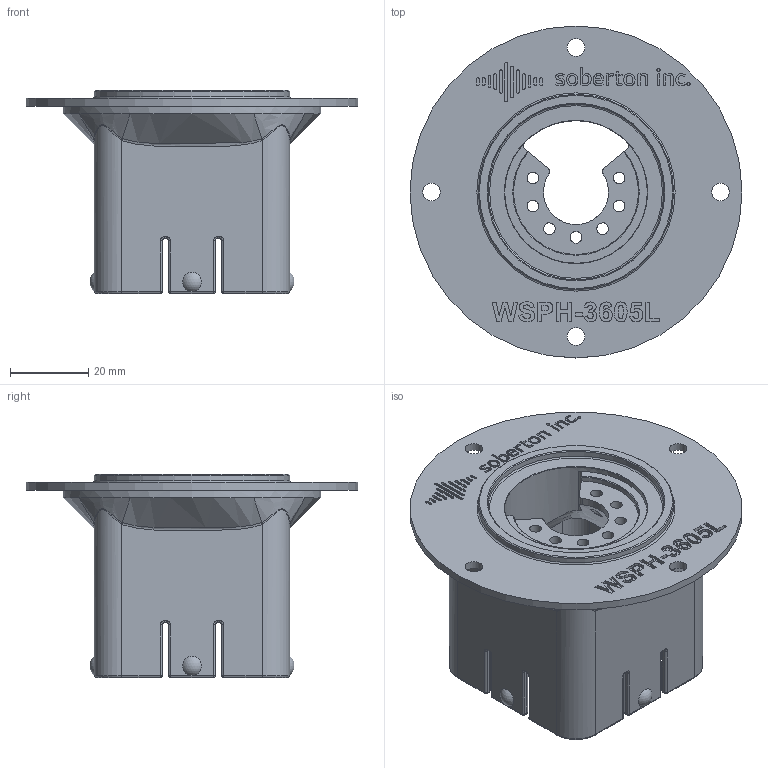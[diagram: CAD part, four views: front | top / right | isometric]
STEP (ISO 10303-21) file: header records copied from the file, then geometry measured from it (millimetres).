
FILE_DESCRIPTION(/* description */ (''),/* implementation_level */ '2;1');
FILE_NAME(/* name */ 'C:/Users/bodhe/OneDrive - Obvious Innovations LLC/Documents/Soberton Parts/Enclosure files/EC-001N.step',/* time_stamp */ '2021-04-26T18:06:17-05:00',/* author */ (''),/* organization */ (''),/* preprocessor_version */ 'ST-DEVELOPER v18.1',/* originating_system */ 'Autodesk Translation Framework v10.6.0.1341',/* authorisation */ '');
FILE_SCHEMA (('AUTOMOTIVE_DESIGN { 1 0 10303 214 3 1 1 }'));
Length unit declared in the file: millimetre
Products named in the file (1): EC-001N
Bounding box: 85 x 85 x 52 mm (x, y, z)
Volume: 55710.2 mm3; surface area: 26714.2 mm2
Topology: 1 solids, 2 shells, 769 faces, 2022 edges, 1273 vertices
Faces by surface type: bspline 310, plane 225, cylinder 156, torus 38, sphere 36, cone 4
Full cylindrical faces by diameter (mm): 0.429 x1, 3 x7, 4.5 x4, 36.5 x1, 45 x1, 50 x1, 66 x1, 85 x1
Entity records: 32344 total; most frequent: CARTESIAN_POINT 15367, ORIENTED_EDGE 3980, DIRECTION 2657, EDGE_CURVE 1990, VERTEX_POINT 1273, LINE 985, VECTOR 985, EDGE_LOOP 841
